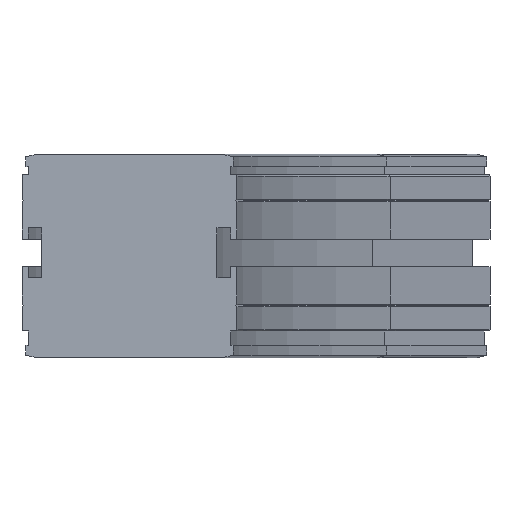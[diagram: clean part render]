
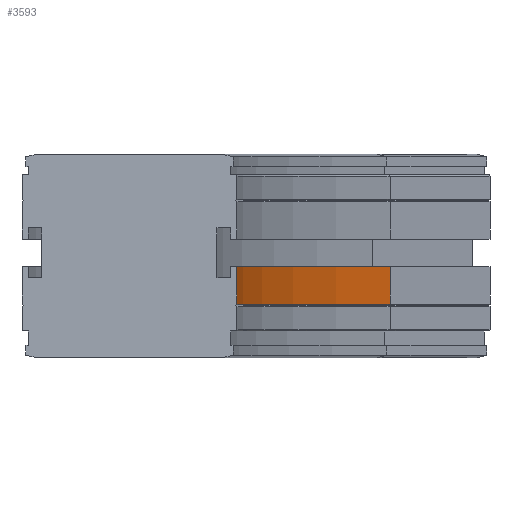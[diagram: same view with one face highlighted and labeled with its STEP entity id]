
A CAD part, left-side view. The second image highlights one B-rep face of the part: STEP entity #3593.
In plain terms, the highlighted cylindrical face has radius 457 mm (diameter 914 mm), a partial arc.
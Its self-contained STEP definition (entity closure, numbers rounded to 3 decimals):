
#2261=CARTESIAN_POINT('',(308.5,-104.226,-60.));
#2262=VERTEX_POINT('',#2261);
#2292=CARTESIAN_POINT('',(308.5,-104.226,-45.));
#2293=VERTEX_POINT('',#2292);
#2300=CARTESIAN_POINT('',(308.5,-104.226,-60.));
#2301=DIRECTION('',(0.0,0.0,1.0));
#2302=VECTOR('',#2301,15.0);
#2303=LINE('',#2300,#2302);
#2304=EDGE_CURVE('',#2262,#2293,#2303,.T.);
#3550=CARTESIAN_POINT('',(80.0,-43.0,-60.));
#3551=VERTEX_POINT('',#3550);
#3552=CARTESIAN_POINT('',(80.0,-500.0,-60.));
#3553=DIRECTION('',(0.0,0.0,-1.0));
#3554=DIRECTION('',(-0.5,-0.866,0.0));
#3555=AXIS2_PLACEMENT_3D('',#3552,#3553,#3554);
#3556=CIRCLE('',#3555,457.);
#3557=EDGE_CURVE('',#3551,#2262,#3556,.T.);
#3569=CARTESIAN_POINT('',(80.0,-500.0,-52.5));
#3570=DIRECTION('',(0.0,0.0,-1.0));
#3571=DIRECTION('',(-0.5,-0.866,0.0));
#3572=AXIS2_PLACEMENT_3D('',#3569,#3570,#3571);
#3573=CYLINDRICAL_SURFACE('',#3572,457.);
#3574=ORIENTED_EDGE('',*,*,#2304,.T.);
#3575=CARTESIAN_POINT('',(80.0,-43.0,-45.));
#3576=VERTEX_POINT('',#3575);
#3577=CARTESIAN_POINT('',(80.0,-500.0,-45.));
#3578=DIRECTION('',(0.0,0.0,-1.0));
#3579=DIRECTION('',(-0.5,-0.866,0.0));
#3580=AXIS2_PLACEMENT_3D('',#3577,#3578,#3579);
#3581=CIRCLE('',#3580,457.);
#3582=EDGE_CURVE('',#3576,#2293,#3581,.T.);
#3583=ORIENTED_EDGE('',*,*,#3582,.F.);
#3584=CARTESIAN_POINT('',(80.0,-43.0,-60.));
#3585=DIRECTION('',(0.0,0.0,1.0));
#3586=VECTOR('',#3585,15.0);
#3587=LINE('',#3584,#3586);
#3588=EDGE_CURVE('',#3551,#3576,#3587,.T.);
#3589=ORIENTED_EDGE('',*,*,#3588,.F.);
#3590=ORIENTED_EDGE('',*,*,#3557,.T.);
#3591=EDGE_LOOP('',(#3574,#3583,#3589,#3590));
#3592=FACE_OUTER_BOUND('',#3591,.T.);
#3593=ADVANCED_FACE('',(#3592),#3573,.F.);
